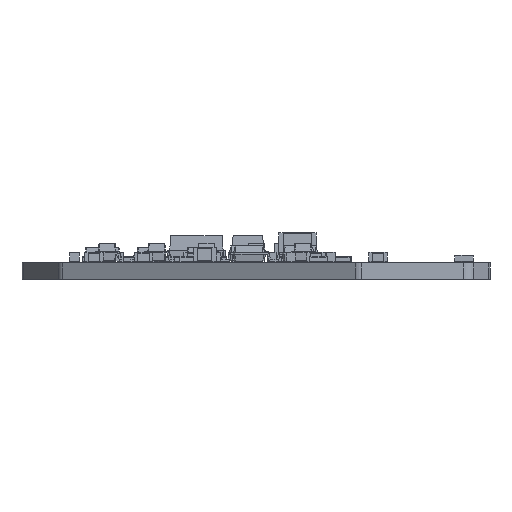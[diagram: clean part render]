
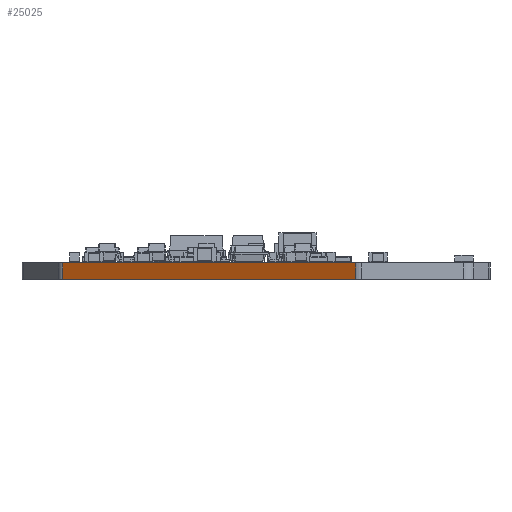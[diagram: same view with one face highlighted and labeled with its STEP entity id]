
A CAD part, front view. The second image highlights one B-rep face of the part: STEP entity #25025.
In plain terms, the highlighted planar face has unit normal (-0.5, -0.866, 0).
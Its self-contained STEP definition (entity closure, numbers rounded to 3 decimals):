
#23107 = VERTEX_POINT('',#23108);
#23108 = CARTESIAN_POINT('',(22.077,-77.589,0.));
#23115 = EDGE_CURVE('',#23116,#23107,#23118,.T.);
#23116 = VERTEX_POINT('',#23117);
#23117 = CARTESIAN_POINT('',(47.1,-92.036,0.));
#23118 = LINE('',#23119,#23120);
#23119 = CARTESIAN_POINT('',(47.1,-92.036,0.));
#23120 = VECTOR('',#23121,1.);
#23121 = DIRECTION('',(-0.866,0.5,0.));
#23976 = VERTEX_POINT('',#23977);
#23977 = CARTESIAN_POINT('',(22.077,-77.589,1.425));
#23984 = EDGE_CURVE('',#23985,#23976,#23987,.T.);
#23985 = VERTEX_POINT('',#23986);
#23986 = CARTESIAN_POINT('',(47.1,-92.036,1.425));
#23987 = LINE('',#23988,#23989);
#23988 = CARTESIAN_POINT('',(47.1,-92.036,1.425));
#23989 = VECTOR('',#23990,1.);
#23990 = DIRECTION('',(-0.866,0.5,0.));
#24997 = EDGE_CURVE('',#23116,#23985,#24998,.T.);
#24998 = LINE('',#24999,#25000);
#24999 = CARTESIAN_POINT('',(47.1,-92.036,0.));
#25000 = VECTOR('',#25001,1.);
#25001 = DIRECTION('',(0.,0.,1.));
#25025 = ADVANCED_FACE('',(#25026),#25037,.T.);
#25026 = FACE_BOUND('',#25027,.T.);
#25027 = EDGE_LOOP('',(#25028,#25029,#25030,#25036));
#25028 = ORIENTED_EDGE('',*,*,#24997,.T.);
#25029 = ORIENTED_EDGE('',*,*,#23984,.T.);
#25030 = ORIENTED_EDGE('',*,*,#25031,.F.);
#25031 = EDGE_CURVE('',#23107,#23976,#25032,.T.);
#25032 = LINE('',#25033,#25034);
#25033 = CARTESIAN_POINT('',(22.077,-77.589,0.));
#25034 = VECTOR('',#25035,1.);
#25035 = DIRECTION('',(0.,0.,1.));
#25036 = ORIENTED_EDGE('',*,*,#23115,.F.);
#25037 = PLANE('',#25038);
#25038 = AXIS2_PLACEMENT_3D('',#25039,#25040,#25041);
#25039 = CARTESIAN_POINT('',(47.1,-92.036,0.));
#25040 = DIRECTION('',(-0.5,-0.866,0.));
#25041 = DIRECTION('',(-0.866,0.5,0.));
